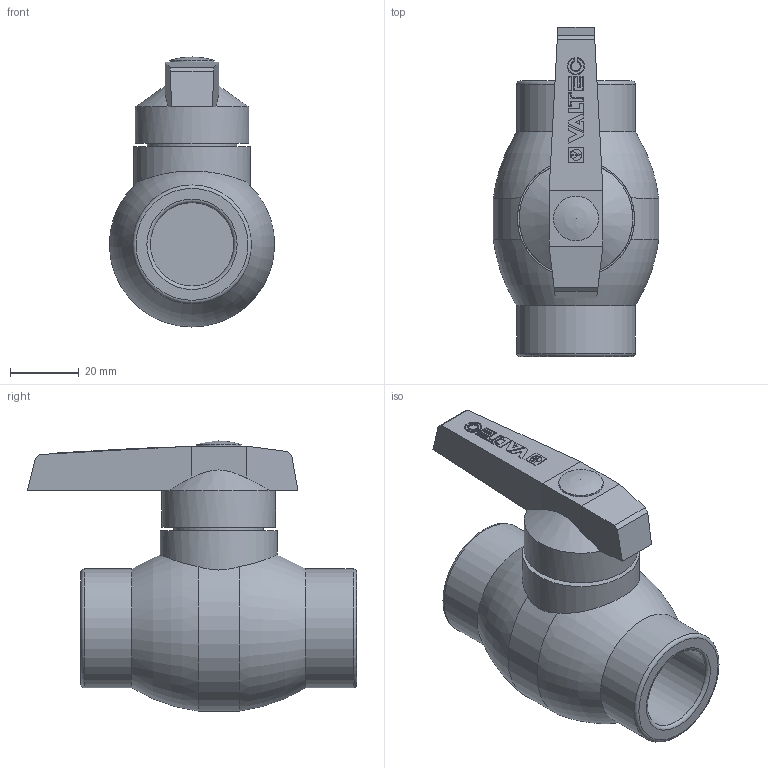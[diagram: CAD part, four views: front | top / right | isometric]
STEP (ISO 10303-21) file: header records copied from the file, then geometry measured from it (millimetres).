
FILE_DESCRIPTION(('STEP AP242'), '1');
FILE_NAME('VTp.744.0.025', '', ('UNSPECIFIED'), ('UNSPECIFIED'), 'C3D Converter', 'C3D Toolkit', '');
FILE_SCHEMA(('AP242_MANAGED_MODEL_BASED_3D_ENGINEERING_MIM_LF { 1 0 10303 442 1 1 4 }'));
Length unit declared in the file: millimetre
Bounding box: 47.99 x 95.5 x 78.4 mm (x, y, z)
Volume: 117894.2 mm3; surface area: 20768.4 mm2
Topology: 1 solids, 1 shells, 138 faces, 339 edges, 221 vertices
Faces by surface type: plane 115, cylinder 14, torus 6, cone 2, sphere 1
Full cylindrical faces by diameter (mm): 13 x1, 24.2 x2, 26 x1, 33 x1, 34 x1, 34.5 x2
Entity records: 4484 total; most frequent: CARTESIAN_POINT 1272, ORIENTED_EDGE 646, DIRECTION 607, EDGE_CURVE 323, LINE 275, VECTOR 275, VERTEX_POINT 220, EDGE_LOOP 171
